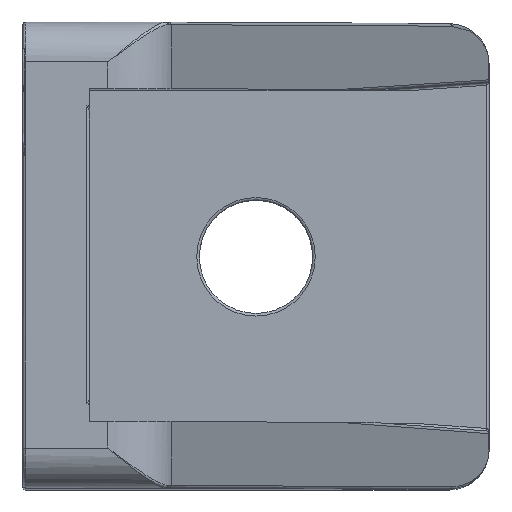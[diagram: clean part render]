
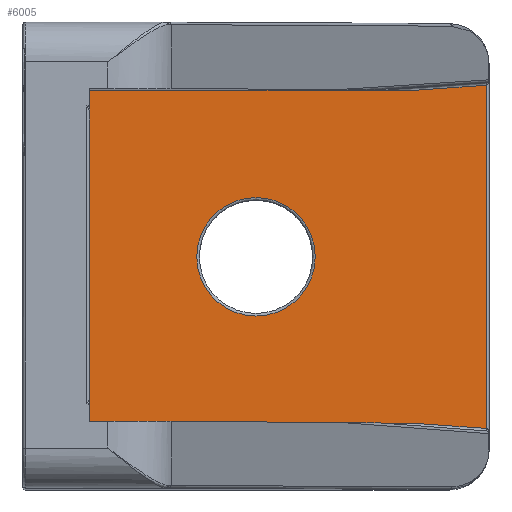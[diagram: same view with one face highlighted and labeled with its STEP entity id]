
A CAD part, top view. The second image highlights one B-rep face of the part: STEP entity #6005.
In plain terms, the highlighted planar face has unit normal (0, 0, 1).
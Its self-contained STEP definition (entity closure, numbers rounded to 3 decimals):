
#92=FACE_BOUND($,#485,.T.);
#137=FACE_OUTER_BOUND($,#484,.T.);
#484=EDGE_LOOP($,(#3977,#3978,#3979,#3980,#3981,#3982));
#485=EDGE_LOOP($,(#3983));
#874=CIRCLE($,#6365,4.45);
#962=LINE($,#8485,#1724);
#971=LINE($,#8513,#1733);
#972=LINE($,#8516,#1734);
#973=LINE($,#8518,#1735);
#974=LINE($,#8519,#1736);
#975=LINE($,#8520,#1737);
#1724=VECTOR($,#6815,24.318);
#1733=VECTOR($,#6836,24.318);
#1734=VECTOR($,#6839,5.495);
#1735=VECTOR($,#6840,25.767);
#1736=VECTOR($,#6841,5.495);
#1737=VECTOR($,#6842,25.);
#2509=VERTEX_POINT($,#8481);
#2511=VERTEX_POINT($,#8484);
#2518=VERTEX_POINT($,#8499);
#2524=VERTEX_POINT($,#8511);
#2525=VERTEX_POINT($,#8515);
#2526=VERTEX_POINT($,#8517);
#2527=VERTEX_POINT($,#8521);
#3080=EDGE_CURVE($,#2509,#2511,#962,.T.);
#3094=EDGE_CURVE($,#2518,#2524,#971,.T.);
#3095=EDGE_CURVE($,#2525,#2509,#972,.T.);
#3096=EDGE_CURVE($,#2526,#2525,#973,.T.);
#3097=EDGE_CURVE($,#2518,#2526,#974,.T.);
#3098=EDGE_CURVE($,#2524,#2511,#975,.T.);
#3099=EDGE_CURVE($,#2527,#2527,#874,.T.);
#3977=ORIENTED_EDGE($,*,*,#3095,.F.);
#3978=ORIENTED_EDGE($,*,*,#3096,.F.);
#3979=ORIENTED_EDGE($,*,*,#3097,.F.);
#3980=ORIENTED_EDGE($,*,*,#3094,.T.);
#3981=ORIENTED_EDGE($,*,*,#3098,.T.);
#3982=ORIENTED_EDGE($,*,*,#3080,.F.);
#3983=ORIENTED_EDGE($,*,*,#3099,.F.);
#5727=PLANE($,#6364);
#6005=ADVANCED_FACE($,(#137,#92),#5727,.T.);
#6364=AXIS2_PLACEMENT_3D($,#8514,#6837,#6838);
#6365=AXIS2_PLACEMENT_3D($,#8522,#6843,#6844);
#6815=DIRECTION($,(-1.,0.,0.));
#6836=DIRECTION($,(-1.,0.,0.));
#6837=DIRECTION('center_axis',(0.,0.,1.));
#6838=DIRECTION('ref_axis',(1.,0.,0.));
#6839=DIRECTION($,(-0.998,0.07,0.));
#6840=DIRECTION($,(0.,-1.,0.));
#6841=DIRECTION($,(0.998,0.07,0.));
#6842=DIRECTION($,(0.,-1.,0.));
#6843=DIRECTION('center_axis',(0.,0.,1.));
#6844=DIRECTION('ref_axis',(-1.,0.,0.));
#8481=CARTESIAN_POINT('',(29.318,5.,6.5));
#8484=CARTESIAN_POINT('',(5.,5.,6.5));
#8485=CARTESIAN_POINT($,(35.,5.,6.5));
#8499=CARTESIAN_POINT('',(29.318,30.,6.5));
#8511=CARTESIAN_POINT('',(5.,30.,6.5));
#8513=CARTESIAN_POINT($,(35.,30.,6.5));
#8514=CARTESIAN_POINT('Origin',(17.5,17.5,6.5));
#8515=CARTESIAN_POINT('',(34.8,4.617,6.5));
#8516=CARTESIAN_POINT($,(25.814,5.245,6.5));
#8517=CARTESIAN_POINT('',(34.8,30.383,6.5));
#8518=CARTESIAN_POINT($,(34.8,26.25,6.5));
#8519=CARTESIAN_POINT($,(8.357,28.534,6.5));
#8520=CARTESIAN_POINT($,(5.,4.617,6.5));
#8521=CARTESIAN_POINT('',(21.95,17.5,6.5));
#8522=CARTESIAN_POINT('Origin',(17.5,17.5,6.5));
